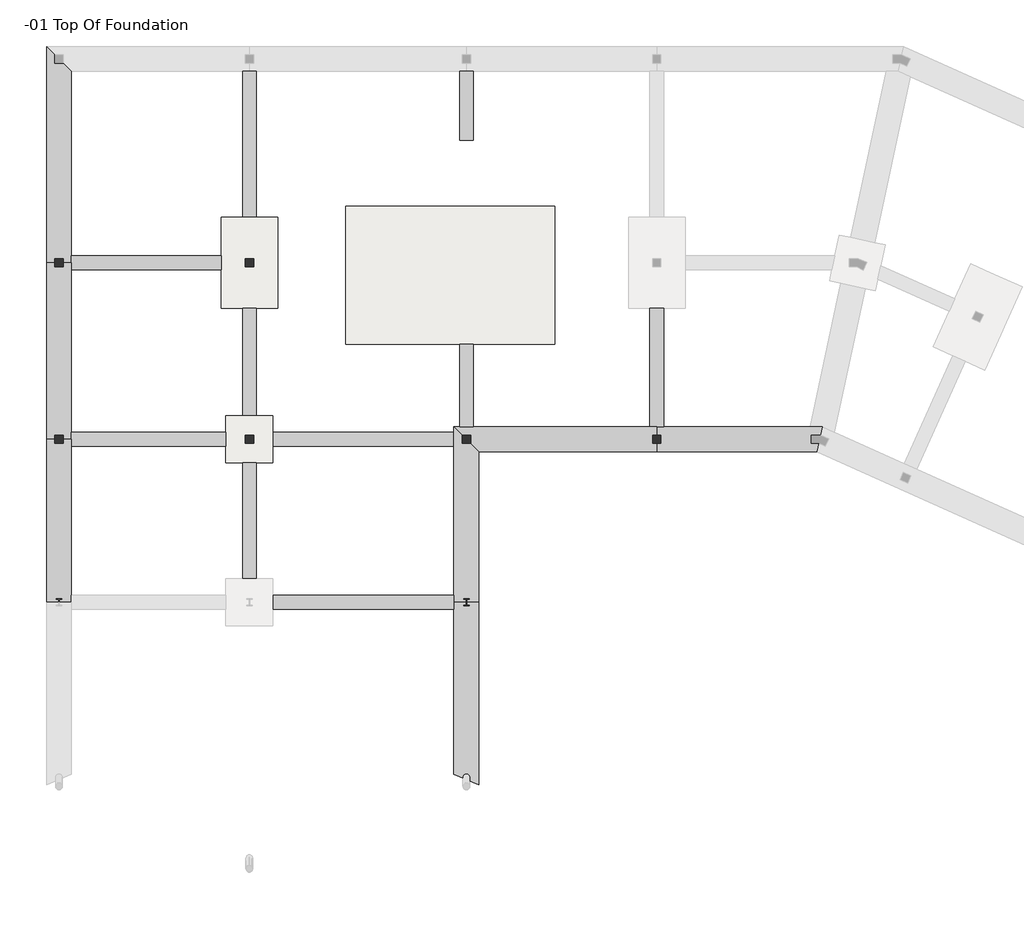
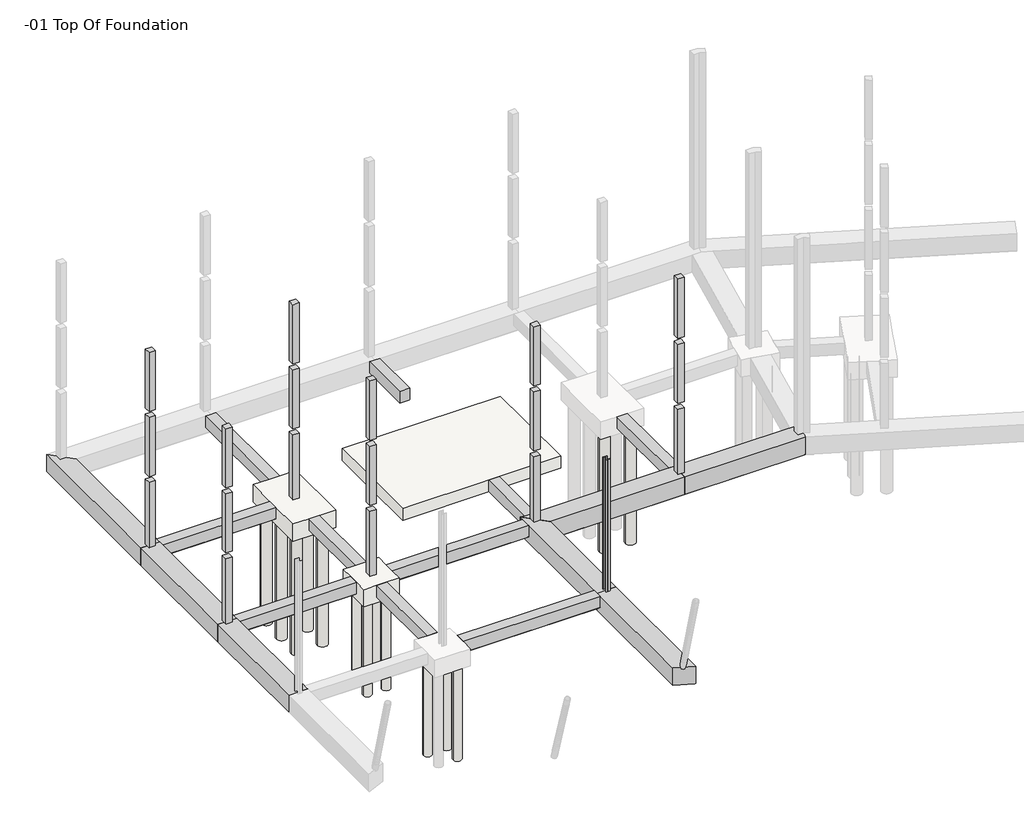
# One storey, part 2 of 4: 18 slabs, 17 beams, 7 columns.
"""IFC4 building model written with IfcOpenShell, lengths in millimetres."""

import ifcopenshell
import ifcopenshell.guid

model = None  # the IFC model being written
_history = None  # IfcOwnerHistory: only IFC2X3 demands one
_inside = {}  # id of a spatial element -> (the spatial element, [elements in it])
_under = {}  # id of a project, library or spatial element -> (it, [spatial elements below it])
_declared = {}  # id of a project -> (the project, [libraries it declares])
_typed = {}  # id of a type object -> (the type object, [elements of that type])
_made_of = {}  # id of a material, layer set ... -> (it, [elements and type objects made of it])


def new_model(schema):
    """Start an empty IFC model of exactly this schema.

    Asked for "IFC4X3", IfcOpenShell would pick the latest addendum, in which some entities
    have other attributes; the version numbers below select the first issue.
    IFC2X3 requires an IfcOwnerHistory on every rooted entity: one is made here for all.
    """
    global model, _history
    if schema == "IFC4X3":
        model = ifcopenshell.file(schema_version=(4, 3, 0, 0))
    else:
        model = ifcopenshell.file(schema=schema)
    _inside.clear()
    _under.clear()
    _declared.clear()
    _typed.clear()
    _made_of.clear()
    _history = None
    if model.schema == "IFC2X3":
        org = make("IfcOrganization", Name="unknown")
        user = make(
            "IfcPersonAndOrganization",
            ThePerson=make("IfcPerson", FamilyName="unknown"),
            TheOrganization=org,
        )
        app = make(
            "IfcApplication",
            ApplicationDeveloper=org,
            Version="unknown",
            ApplicationFullName="unknown",
            ApplicationIdentifier="unknown",
        )
        _history = make(
            "IfcOwnerHistory",
            OwningUser=user,
            OwningApplication=app,
            ChangeAction="ADDED",
            CreationDate=0,
        )
    return model


def make(cls, **values):
    """One entity of the class cls with the attributes given. An attribute that is None is left unset."""
    return model.create_entity(
        cls, **{name: value for name, value in values.items() if value is not None}
    )


def rooted(cls, **values):
    """An entity with a GlobalId (a new one), such as an element, a storey or a relation."""
    return make(cls, GlobalId=ifcopenshell.guid.new(), OwnerHistory=_history, **values)


def si_unit(unit_type, name, prefix=None):
    """IfcSIUnit, for example si_unit("LENGTHUNIT", "METRE", prefix="MILLI")."""
    return make("IfcSIUnit", UnitType=unit_type, Prefix=prefix, Name=name)


def assignment(units):
    """IfcUnitAssignment: the units of a project."""
    return None if units is None else make("IfcUnitAssignment", Units=units)


def point(xyz):
    """IfcCartesianPoint."""
    return None if xyz is None else make("IfcCartesianPoint", Coordinates=xyz)


def direction(xyz):
    """IfcDirection."""
    return None if xyz is None else make("IfcDirection", DirectionRatios=xyz)


def frame(location, z_axis=None, x_axis=None):
    """IfcAxis2Placement3D, a coordinate frame: its origin and axes. An axis left out is left unset."""
    return make(
        "IfcAxis2Placement3D",
        Location=point(location),
        Axis=direction(z_axis),
        RefDirection=direction(x_axis),
    )


def frame_2d(location, x_axis=None):
    """IfcAxis2Placement2D, a coordinate frame in the plane: its origin and x axis."""
    return make(
        "IfcAxis2Placement2D", Location=point(location), RefDirection=direction(x_axis)
    )


def origin():
    """The frame at (0, 0, 0) with its axes left unset."""
    return frame((0.0, 0.0, 0.0))


def place(relative_to, where):
    """IfcLocalPlacement: puts the frame where relative to a parent placement (None: the world)."""
    return make(
        "IfcLocalPlacement", PlacementRelTo=relative_to, RelativePlacement=where
    )


def context(
    kind, dimensions, precision=None, world=None, true_north=None, identifier=None
):
    """IfcGeometricRepresentationContext, for example the 3D "Model" context."""
    return make(
        "IfcGeometricRepresentationContext",
        ContextIdentifier=identifier,
        ContextType=kind,
        CoordinateSpaceDimension=dimensions,
        Precision=precision,
        WorldCoordinateSystem=world,
        TrueNorth=true_north,
    )


def project(units=None, contexts=None):
    """IfcProject with its units and contexts."""
    return rooted(
        "IfcProject",
        Name="project",
        RepresentationContexts=contexts,
        UnitsInContext=assignment(units),
    )


def spatial(cls, under=None, at=None, **own):
    """A site, building, storey or space (cls), placed at a placement, below another one or the project."""
    s = rooted(cls, ObjectPlacement=at, **own)
    if under is not None:
        _under.setdefault(under.id(), (under, []))[1].append(s)
    return s


def polyline(points):
    """IfcPolyline through the points."""
    return make("IfcPolyline", Points=[point(p) for p in points])


def circle_curve(where, radius):
    """IfcCircle in the frame where."""
    return make("IfcCircle", Position=where, Radius=radius)


def trimmed(basis, trim1, trim2, sense, master):
    """IfcTrimmedCurve: the piece of a basis curve between two trims."""
    return make(
        "IfcTrimmedCurve",
        BasisCurve=basis,
        Trim1=trim1,
        Trim2=trim2,
        SenseAgreement=sense,
        MasterRepresentation=master,
    )


def segment(curve, same_sense, transition):
    """IfcCompositeCurveSegment."""
    return make(
        "IfcCompositeCurveSegment",
        Transition=transition,
        SameSense=same_sense,
        ParentCurve=curve,
    )


def composite_curve(segments, self_intersect=None):
    """IfcCompositeCurve: segments joined end to end."""
    return make("IfcCompositeCurve", Segments=segments, SelfIntersect=self_intersect)


def outline(outer, holes=None, kind="AREA"):
    """IfcArbitraryClosedProfileDef: a profile drawn as a closed curve; with holes, ...WithVoids."""
    if holes is None:
        return make("IfcArbitraryClosedProfileDef", ProfileType=kind, OuterCurve=outer)
    return make(
        "IfcArbitraryProfileDefWithVoids",
        ProfileType=kind,
        OuterCurve=outer,
        InnerCurves=holes,
    )


def extrude(swept, where, along, depth):
    """IfcExtrudedAreaSolid: the profile swept, set in the frame where, extruded along a direction by depth."""
    return make(
        "IfcExtrudedAreaSolid",
        SweptArea=swept,
        Position=where,
        ExtrudedDirection=direction(along),
        Depth=depth,
    )


def faces_of(points, faces, orient=None, outer=None):
    """IfcFace entities. A face is a list of loops; a loop is a list of indices into points, from 0.

    orient and outer hold one flag for each loop. By default every Orientation is true, the
    first loop of a face is its IfcFaceOuterBound and the others are IfcFaceBound.
    """
    made = []
    for i, loops in enumerate(faces):
        bounds = []
        for j, loop in enumerate(loops):
            is_outer = j == 0 if outer is None else outer[i][j]
            bounds.append(
                make(
                    "IfcFaceOuterBound" if is_outer else "IfcFaceBound",
                    Bound=make("IfcPolyLoop", Polygon=[points[k] for k in loop]),
                    Orientation=True if orient is None else orient[i][j],
                )
            )
        made.append(make("IfcFace", Bounds=bounds))
    return made


def faceted_brep(points, faces, orient=None, outer=None, voids=None):
    """IfcFacetedBrep: a solid bounded by flat faces; with voids (closed shells), ...WithVoids."""
    shared = [point(p) for p in points]
    hull = make("IfcClosedShell", CfsFaces=faces_of(shared, faces, orient, outer))
    if voids is None:
        return make("IfcFacetedBrep", Outer=hull)
    return make(
        "IfcFacetedBrepWithVoids",
        Outer=hull,
        Voids=[
            make(cls, CfsFaces=faces_of(shared, fs, o, b)) for cls, fs, o, b in voids
        ],
    )


def shape(context_of_items, identifier, shape_type, items):
    """IfcShapeRepresentation: the items that make up one representation, for example the "Body"."""
    return make(
        "IfcShapeRepresentation",
        ContextOfItems=context_of_items,
        RepresentationIdentifier=identifier,
        RepresentationType=shape_type,
        Items=items,
    )


def source(mapping_origin, context_of_items, identifier, shape_type, items):
    """IfcRepresentationMap: a shape defined once, which mapped items show again and again."""
    return make(
        "IfcRepresentationMap",
        MappingOrigin=mapping_origin,
        MappedRepresentation=shape(context_of_items, identifier, shape_type, items),
    )


def transform(
    local_origin,
    x_axis=None,
    y_axis=None,
    z_axis=None,
    scale=None,
    scale2=None,
    scale3=None,
    uniform=True,
):
    """IfcCartesianTransformationOperator3D, or its non-uniform kind. x_axis, y_axis, z_axis: its Axis1, 2, 3."""
    if uniform:
        return make(
            "IfcCartesianTransformationOperator3D",
            Axis1=direction(x_axis),
            Axis2=direction(y_axis),
            LocalOrigin=point(local_origin),
            Scale=scale,
            Axis3=direction(z_axis),
        )
    return make(
        "IfcCartesianTransformationOperator3DnonUniform",
        Axis1=direction(x_axis),
        Axis2=direction(y_axis),
        LocalOrigin=point(local_origin),
        Scale=scale,
        Axis3=direction(z_axis),
        Scale2=scale2,
        Scale3=scale3,
    )


def mapped(mapping_source, mapping_target):
    """IfcMappedItem: shows the shape of a source again, moved by a transform."""
    return make(
        "IfcMappedItem", MappingSource=mapping_source, MappingTarget=mapping_target
    )


def made_of(thing, what):
    """Note that an element or type object is made of a material, layer set ...; save() writes the relation."""
    if what is not None:
        _made_of.setdefault(what.id(), (what, []))[1].append(thing)
    return thing


def element(
    cls,
    number,
    at=None,
    inside=None,
    cuts=None,
    type_object=None,
    material=None,
    context=None,
    identifier="Body",
    shape_type=None,
    held_by="IfcProductDefinitionShape",
    body=None,
    shapes=None,
    **own,
):
    """One element of the class cls, such as IfcWall. Its Tag is "e" and its number.

    at: its placement. inside: the storey or other place that contains it. cuts: it is an
    opening in that element (IfcRelVoidsElement). A single representation is given by context,
    identifier, shape_type and body (its items); several are given by shapes. held_by: the class
    of the entity that holds the representations. save() writes the other relations.
    """
    e = rooted(cls, Tag="e%d" % number, ObjectPlacement=at, **own)
    if body is not None:
        shapes = [shape(context, identifier, shape_type, body)]
    if shapes is not None:
        e.Representation = make(held_by, Representations=shapes)
    if inside is not None:
        _inside.setdefault(inside.id(), (inside, []))[1].append(e)
    if cuts is not None:
        rooted(
            "IfcRelVoidsElement", RelatingBuildingElement=cuts, RelatedOpeningElement=e
        )
    if type_object is not None:
        _typed.setdefault(type_object.id(), (type_object, []))[1].append(e)
    return made_of(e, material)


def aggregate(whole, parts):
    """IfcRelAggregates: a whole, such as a stair, and the parts it consists of."""
    return rooted("IfcRelAggregates", RelatingObject=whole, RelatedObjects=parts)


def save(model, path):
    """Write the relations noted so far, then the file.

    IfcRelAggregates (storeys below a building ...), IfcRelContainedInSpatialStructure (elements
    in a storey), IfcRelDefinesByType, IfcRelAssociatesMaterial and IfcRelDeclares: one each for
    every whole, place, type object, material and project.
    """
    for whole, parts in _under.values():
        aggregate(whole, parts)
    for where, things in _inside.values():
        rooted(
            "IfcRelContainedInSpatialStructure",
            RelatedElements=things,
            RelatingStructure=where,
        )
    for kind, things in _typed.values():
        rooted("IfcRelDefinesByType", RelatedObjects=things, RelatingType=kind)
    for what, things in _made_of.values():
        rooted("IfcRelAssociatesMaterial", RelatedObjects=things, RelatingMaterial=what)
    for by, libraries in _declared.values():
        rooted("IfcRelDeclares", RelatingContext=by, RelatedDefinitions=libraries)
    model.write(path)


def w_shapes_column_w10x33_60aa4128(model_context):
    return source(origin(), model_context, "Body", "SweptSolid", [
        extrude(outline(composite_curve([segment(polyline([(101.092, 123.571), (101.092, 112.522), (16.383, 112.522)]), True, "CONTINUOUS"), segment(trimmed(circle_curve(frame_2d((16.383, 99.822)), 12.7), [point((16.383, 112.522))], [point((3.683, 99.822))], True, "CARTESIAN"), True, "CONTINUOUS"), segment(polyline([(3.683, 99.822), (3.683, -99.822)]), True, "CONTINUOUS"), segment(trimmed(circle_curve(frame_2d((16.383, -99.822)), 12.7), [point((3.683, -99.822))], [point((16.383, -112.522))], True, "CARTESIAN"), True, "CONTINUOUS"), segment(polyline([(16.383, -112.522), (101.092, -112.522), (101.092, -123.571), (-101.092, -123.571), (-101.092, -112.522), (-16.383, -112.522)]), True, "CONTINUOUS"), segment(trimmed(circle_curve(frame_2d((-16.383, -99.822)), 12.7), [point((-16.383, -112.522))], [point((-3.683, -99.822))], True, "CARTESIAN"), True, "CONTINUOUS"), segment(polyline([(-3.683, -99.822), (-3.683, 99.822)]), True, "CONTINUOUS"), segment(trimmed(circle_curve(frame_2d((-16.383, 99.822)), 12.7), [point((-3.683, 99.822))], [point((-16.383, 112.522))], True, "CARTESIAN"), True, "CONTINUOUS"), segment(polyline([(-16.383, 112.522), (-101.092, 112.522), (-101.092, 123.571), (101.092, 123.571)]), True, "CONTINUOUS")], self_intersect=False)), frame((0.0, 0.0, -304.8), z_axis=(0.0, 0.0, 1.0), x_axis=(1.0, 0.0, 0.0)), (0.0, 0.0, 1.0), 6807.2),
    ])


model = new_model("IFC4")

# Units and contexts
model_context = context("Model", 3, world=origin())
ifc_project = project(units=[si_unit("LENGTHUNIT", "METRE", prefix="MILLI")], contexts=[model_context])

# Site, building, storey
site = spatial("IfcSite", under=ifc_project)
building = spatial("IfcBuilding", under=site)
storey = spatial("IfcBuildingStorey", under=building, Name="-01 Top Of Foundation", Elevation=-304.8)

# Beams
placement = place(None, origin())
element("IfcBeam", 1, ObjectType="Ring Beam : 12 x 24", at=placement, inside=storey, context=model_context, shape_type="Brep", body=[
    faceted_brep([(21755.1, -13538.2, -304.8), (22009.1, -13538.2, -304.8), (22263.1, -13538.2, -304.8), (22263.1, -9182.1, -304.8), (21755.1, -9182.1, -304.8), (22263.1, -13538.2, -889.0), (22263.1, -9182.1, -889.0), (22237.7, -13538.2, -914.4), (22237.7, -9182.1, -914.4), (21780.5, -13538.2, -914.4), (21780.5, -9182.1, -914.4), (21755.1, -13538.2, -889.0), (21755.1, -9182.1, -889.0)], [[[0, 1, 2, 3, 4]], [[2, 5, 6, 3]], [[5, 7, 8, 6]], [[7, 9, 10, 8]], [[9, 11, 12, 10]], [[11, 0, 4, 12]], [[5, 2, 1, 0, 11, 9, 7]], [[4, 3, 6, 8, 10, 12]]]),
])
element("IfcBeam", 2, ObjectType="Ring Beam : 12 x 24", at=placement, inside=storey, context=model_context, shape_type="Brep", body=[
    faceted_brep([(457.2, -7251.7, -304.8), (457.2, -7505.7, -304.8), (457.2, -7759.7, -304.8), (5969.0, -7759.7, -304.8), (5969.0, -7251.7, -304.8), (457.2, -7251.7, -889.0), (5969.0, -7251.7, -889.0), (457.2, -7277.1, -914.4), (5969.0, -7277.1, -914.4), (457.2, -7734.3, -914.4), (5969.0, -7734.3, -914.4), (457.2, -7759.7, -889.0), (5969.0, -7759.7, -889.0)], [[[0, 1, 2, 3, 4]], [[5, 0, 4, 6]], [[7, 5, 6, 8]], [[9, 7, 8, 10]], [[11, 9, 10, 12]], [[2, 11, 12, 3]], [[9, 11, 2, 1, 0, 5, 7]], [[4, 3, 12, 10, 8, 6]]]),
])
element("IfcBeam", 3, ObjectType="Ring Beam : 12 x 24", at=placement, inside=storey, context=model_context, shape_type="Brep", body=[
    faceted_brep([(7264.4, -457.2, -304.8), (7010.4, -457.2, -304.8), (6756.4, -457.2, -304.8), (6756.4, -5829.3, -304.8), (7264.4, -5829.3, -304.8), (7264.4, -457.2, -889.0), (7264.4, -5829.3, -889.0), (7239.0, -457.2, -914.4), (7239.0, -5829.3, -914.4), (6781.8, -457.2, -914.4), (6781.8, -5829.3, -914.4), (6756.4, -457.2, -889.0), (6756.4, -5829.3, -889.0)], [[[0, 1, 2, 3, 4]], [[5, 0, 4, 6]], [[7, 5, 6, 8]], [[9, 7, 8, 10]], [[11, 9, 10, 12]], [[2, 11, 12, 3]], [[0, 5, 7, 9, 11, 2, 1]], [[4, 3, 12, 10, 8, 6]]]),
])
element("IfcBeam", 4, ObjectType="Ring Beam : 12 x 24", at=placement, inside=storey, context=model_context, shape_type="Brep", body=[
    faceted_brep([(14744.7, -2984.5, -304.8), (15252.7, -2984.5, -304.8), (15252.7, -457.2, -304.8), (14998.7, -457.2, -304.8), (14744.7, -457.2, -304.8), (14744.7, -2984.5, -889.0), (14744.7, -457.2, -889.0), (14770.1, -2984.5, -914.4), (14770.1, -457.2, -914.4), (15227.3, -2984.5, -914.4), (15227.3, -457.2, -914.4), (15252.7, -2984.5, -889.0), (15252.7, -457.2, -889.0)], [[[0, 1, 2, 3, 4]], [[5, 0, 4, 6]], [[7, 5, 6, 8]], [[9, 7, 8, 10]], [[11, 9, 10, 12]], [[1, 11, 12, 2]], [[1, 0, 5, 7, 9, 11]], [[2, 12, 10, 8, 6, 4, 3]]]),
])
element("IfcBeam", 5, ObjectType="Ring Beam : 12 x 24", at=placement, inside=storey, context=model_context, shape_type="SweptSolid", body=[
    extrude(outline(polyline([(-304.8, 15252.7), (-304.8, 14744.7), (-889.0, 14744.7), (-914.4, 14770.1), (-914.4, 15227.3), (-889.0, 15252.7), (-304.8, 15252.7)])), frame((0.0, -13538.2, 0.0), z_axis=(0.0, 1.0, 0.0), x_axis=(0.0, 0.0, 1.0)), (0.0, 0.0, 1.0), 3035.3),
])
element("IfcBeam", 6, ObjectType="Ring Beam : 12 x 24", at=placement, inside=storey, context=model_context, shape_type="SweptSolid", body=[
    extrude(outline(polyline([(-14249.4, -304.8), (-13741.4, -304.8), (-13741.4, -889.0), (-13766.8, -914.4), (-14224.0, -914.4), (-14249.4, -889.0), (-14249.4, -304.8)])), frame((7874.0, 0.0, 0.0), z_axis=(1.0, 0.0, 0.0), x_axis=(0.0, 1.0, 0.0)), (0.0, 0.0, 1.0), 6667.5),
])
element("IfcBeam", 7, ObjectType="Ring Beam : 12 x 24", at=placement, inside=storey, context=model_context, shape_type="SweptSolid", body=[
    extrude(outline(polyline([(-304.8, 7264.4), (-304.8, 6756.4), (-889.0, 6756.4), (-914.4, 6781.8), (-914.4, 7239.0), (-889.0, 7264.4), (-304.8, 7264.4)])), frame((0.0, -13131.8, 0.0), z_axis=(0.0, 1.0, 0.0), x_axis=(0.0, 0.0, 1.0)), (0.0, 0.0, 1.0), 3949.7),
])
element("IfcBeam", 8, ObjectType="Ring Beam : 12 x 24", at=placement, inside=storey, context=model_context, shape_type="SweptSolid", body=[
    extrude(outline(polyline([(-304.8, 7264.4), (-304.8, 6756.4), (-889.0, 6756.4), (-914.4, 6781.8), (-914.4, 7239.0), (-889.0, 7264.4), (-304.8, 7264.4)])), frame((0.0, -19138.9, 0.0), z_axis=(0.0, 1.0, 0.0), x_axis=(0.0, 0.0, 1.0)), (0.0, 0.0, 1.0), 4279.9),
])
element("IfcBeam", 9, ObjectType="Ring Beam : 12 x 24", at=placement, inside=storey, context=model_context, shape_type="Brep", body=[
    faceted_brep([(457.2, -13741.4, -304.8), (457.2, -13995.4, -304.8), (457.2, -14249.4, -304.8), (6146.8, -14249.4, -304.8), (6146.8, -13741.4, -304.8), (457.2, -13741.4, -889.0), (6146.8, -13741.4, -889.0), (457.2, -13766.8, -914.4), (6146.8, -13766.8, -914.4), (457.2, -14224.0, -914.4), (6146.8, -14224.0, -914.4), (457.2, -14249.4, -889.0), (6146.8, -14249.4, -889.0)], [[[0, 1, 2, 3, 4]], [[5, 0, 4, 6]], [[7, 5, 6, 8]], [[9, 7, 8, 10]], [[11, 9, 10, 12]], [[2, 11, 12, 3]], [[0, 5, 7, 9, 11, 2, 1]], [[4, 3, 12, 10, 8, 6]]]),
])
element("IfcBeam", 10, ObjectType="Ring Beam : 12 x 24", at=placement, inside=storey, context=model_context, shape_type="Brep", body=[
    faceted_brep([(14541.5, -20256.5, -304.8), (14541.5, -20002.5, -304.8), (14541.5, -19748.5, -304.8), (7874.0, -19748.5, -304.8), (7874.0, -20256.5, -304.8), (14541.5, -20256.5, -889.0), (7874.0, -20256.5, -889.0), (14541.5, -20231.1, -914.4), (7874.0, -20231.1, -914.4), (14541.5, -19773.9, -914.4), (7874.0, -19773.9, -914.4), (14541.5, -19748.5, -889.0), (7874.0, -19748.5, -889.0)], [[[0, 1, 2, 3, 4]], [[5, 0, 4, 6]], [[7, 5, 6, 8]], [[9, 7, 8, 10]], [[11, 9, 10, 12]], [[2, 11, 12, 3]], [[0, 5, 7, 9, 11, 2, 1]], [[4, 3, 12, 10, 8, 6]]]),
])
element("IfcBeam", 11, ObjectType="Ring Beam : 16 x 32", at=placement, inside=storey, context=model_context, shape_type="Brep", body=[
    faceted_brep([(457.2, -7505.7, -304.8), (457.2, -7251.7, -304.8), (457.2, -457.2, -304.8), (-457.2, 457.2, -304.8), (-457.2, -7505.7, -304.8), (-457.2, 457.2, -1193.8), (-457.2, -7505.7, -1193.8), (-431.8, 431.8, -1219.2), (-431.8, -7505.7, -1219.2), (431.8, -431.8, -1219.2), (431.8, -7505.7, -1219.2), (457.2, -457.2, -1193.8), (457.2, -7505.7, -1193.8)], [[[0, 1, 2, 3, 4]], [[4, 3, 5, 6]], [[6, 5, 7, 8]], [[8, 7, 9, 10]], [[10, 9, 11, 12]], [[2, 1, 0, 12, 11]], [[2, 11, 9, 7, 5, 3]], [[0, 4, 6, 8, 10, 12]]]),
])
element("IfcBeam", 12, ObjectType="Ring Beam : 16 x 32", at=placement, inside=storey, context=model_context, shape_type="Brep", body=[
    faceted_brep([(-457.2, -20002.5, -304.8), (457.2, -20002.5, -304.8), (457.2, -19748.5, -304.8), (457.2, -14249.4, -304.8), (457.2, -13995.4, -304.8), (-457.2, -13995.4, -304.8), (-457.2, -14452.6, -304.8), (-457.2, -20002.5, -1193.8), (-457.2, -13995.4, -1193.8), (-431.8, -20002.5, -1219.2), (-431.8, -13995.4, -1219.2), (431.8, -20002.5, -1219.2), (431.8, -13995.4, -1219.2), (457.2, -20002.5, -1193.8), (457.2, -13995.4, -1193.8)], [[[0, 1, 2, 3, 4, 5, 6]], [[7, 0, 6, 5, 8]], [[9, 7, 8, 10]], [[11, 9, 10, 12]], [[13, 11, 12, 14]], [[1, 13, 14, 4, 3, 2]], [[4, 14, 12, 10, 8, 5]], [[1, 0, 7, 9, 11, 13]]]),
])
element("IfcBeam", 13, ObjectType="Ring Beam : 16 x 32", at=placement, inside=storey, context=model_context, shape_type="Brep", body=[
    faceted_brep([(14541.5, -20002.5, -304.8), (15455.9, -20002.5, -304.8), (15455.9, -14452.6, -304.8), (14541.5, -13538.2, -304.8), (14541.5, -13741.4, -304.8), (14541.5, -14249.4, -304.8), (14541.5, -19748.5, -304.8), (14541.5, -20002.5, -1193.8), (14541.5, -13538.2, -1193.8), (14566.9, -20002.5, -1219.2), (14566.9, -13563.6, -1219.2), (15430.5, -20002.5, -1219.2), (15430.5, -14427.2, -1219.2), (15455.9, -20002.5, -1193.8), (15455.9, -14452.6, -1193.8)], [[[0, 1, 2, 3, 4, 5, 6]], [[7, 0, 6, 5, 4, 3, 8]], [[9, 7, 8, 10]], [[11, 9, 10, 12]], [[13, 11, 12, 14]], [[1, 13, 14, 2]], [[2, 14, 12, 10, 8, 3]], [[1, 0, 7, 9, 11, 13]]]),
])
element("IfcBeam", 14, ObjectType="Ring Beam : 16 x 32", at=placement, inside=storey, context=model_context, shape_type="Brep", body=[
    faceted_brep([(22009.1, -13538.2, -304.8), (21755.1, -13538.2, -304.8), (15252.7, -13538.2, -304.8), (14744.7, -13538.2, -304.8), (14541.5, -13538.2, -304.8), (15455.9, -14452.6, -304.8), (22009.1, -14452.6, -304.8), (15455.9, -14452.6, -1193.8), (22009.1, -14452.6, -1193.8), (15430.5, -14427.2, -1219.2), (22009.1, -14427.2, -1219.2), (14566.9, -13563.6, -1219.2), (22009.1, -13563.6, -1219.2), (14541.5, -13538.2, -1193.8), (22009.1, -13538.2, -1193.8)], [[[0, 1, 2, 3, 4, 5, 6]], [[6, 5, 7, 8]], [[8, 7, 9, 10]], [[10, 9, 11, 12]], [[12, 11, 13, 14]], [[4, 3, 2, 1, 0, 14, 13]], [[4, 13, 11, 9, 7, 5]], [[0, 6, 8, 10, 12, 14]]]),
])
element("IfcBeam", 15, ObjectType="Ring Beam : 16 x 32", at=placement, inside=storey, context=model_context, shape_type="Brep", body=[
    faceted_brep([(27903.7815965, -14452.6, -304.8), (28099.7244536, -13538.2, -304.8), (27649.987277, -13538.2, -304.8), (22263.1, -13538.2, -304.8), (22009.1, -13538.2, -304.8), (22009.1, -14452.6, -304.8), (27903.7815965, -14452.6, -1193.8), (22009.1, -14452.6, -1193.8), (27909.2244536, -14427.2, -1219.2), (22009.1, -14427.2, -1219.2), (28094.2815965, -13563.6, -1219.2), (22009.1, -13563.6, -1219.2), (27670.521038, -13563.6, -1219.2), (28099.7244536, -13538.2, -1193.8), (22009.1, -13538.2, -1193.8), (27649.987277, -13538.2, -1193.8)], [[[0, 1, 2, 3, 4, 5]], [[6, 0, 5, 7]], [[8, 6, 7, 9]], [[10, 8, 9, 11, 12]], [[13, 10, 12, 11, 14, 15]], [[1, 13, 15, 14, 4, 3, 2]], [[1, 0, 6, 8, 10, 13]], [[4, 14, 11, 9, 7, 5]]]),
])
element("IfcBeam", 16, ObjectType="Ring Beam : 16 x 32", at=placement, inside=storey, context=model_context, shape_type="Brep", body=[
    faceted_brep([(14541.5, -26332.3874204, -304.8), (15455.9, -26723.3402351, -304.8), (15455.9, -20002.5, -304.8), (14541.5, -20002.5, -304.8), (14541.5, -20256.5, -304.8), (14541.5, -26332.3874204, -1193.8), (14541.5, -20002.5, -1193.8), (14566.9, -26343.2472208, -1219.2), (14566.9, -20002.5, -1219.2), (15430.5, -26712.4804347, -1219.2), (15430.5, -20002.5, -1219.2), (15455.9, -26723.3402351, -1193.8), (15455.9, -20002.5, -1193.8)], [[[0, 1, 2, 3, 4]], [[5, 0, 4, 3, 6]], [[7, 5, 6, 8]], [[9, 7, 8, 10]], [[11, 9, 10, 12]], [[1, 11, 12, 2]], [[1, 0, 5, 7, 9, 11]], [[2, 12, 10, 8, 6, 3]]]),
])
element("IfcBeam", 17, ObjectType="Ring Beam : 16 x 32", at=placement, inside=storey, context=model_context, shape_type="Brep", body=[
    faceted_brep([(-457.2, -13995.4, -304.8), (457.2, -13995.4, -304.8), (457.2, -13741.4, -304.8), (457.2, -7759.7, -304.8), (457.2, -7505.7, -304.8), (-457.2, -7505.7, -304.8), (-457.2, -13995.4, -1193.8), (-457.2, -7505.7, -1193.8), (-431.8, -13995.4, -1219.2), (-431.8, -7505.7, -1219.2), (431.8, -13995.4, -1219.2), (431.8, -7505.7, -1219.2), (457.2, -13995.4, -1193.8), (457.2, -7505.7, -1193.8)], [[[0, 1, 2, 3, 4, 5]], [[6, 0, 5, 7]], [[8, 6, 7, 9]], [[10, 8, 9, 11]], [[12, 10, 11, 13]], [[1, 12, 13, 4, 3, 2]], [[1, 0, 6, 8, 10, 12]], [[4, 13, 11, 9, 7, 5]]]),
])

# Columns
element("IfcColumn", 18, ObjectType="Concrete-Rectangular-Column : 12 x 12", at=placement, inside=storey, context=model_context, shape_type="Brep", body=[
    faceted_brep([(7162.8, -7353.3, -304.8), (7162.8, -7658.1, -304.8), (6858.0, -7658.1, -304.8), (6858.0, -7353.3, -304.8), (7162.8, -7658.1, 3048.0), (7162.8, -7353.3, 3048.0), (6858.0, -7353.3, 3048.0), (6858.0, -7658.1, 3048.0), (7162.8, -7353.3, 0.0), (7162.8, -7658.1, 0.0), (6858.0, -7658.1, 0.0), (6858.0, -7353.3, 0.0)], [[[0, 1, 2, 3]], [[4, 5, 6, 7]], [[1, 0, 8, 5, 4, 9]], [[2, 1, 9, 4, 7, 10]], [[3, 2, 10, 7, 6, 11]], [[0, 3, 11, 6, 5, 8]]]),
    faceted_brep([(7162.8, -7658.1, 6705.6), (7162.8, -7353.3, 6705.6), (7162.8, -7353.3, 9753.6), (7162.8, -7658.1, 9753.6), (6858.0, -7658.1, 6705.6), (6858.0, -7658.1, 9753.6), (6858.0, -7353.3, 6705.6), (6858.0, -7353.3, 9753.6)], [[[0, 1, 2, 3]], [[4, 0, 3, 5]], [[6, 4, 5, 7]], [[1, 6, 7, 2]], [[1, 0, 4, 6]], [[3, 2, 7, 5]]]),
    faceted_brep([(7162.8, -7658.1, 6400.8), (7162.8, -7353.3, 6400.8), (6858.0, -7353.3, 6400.8), (6858.0, -7658.1, 6400.8), (7162.8, -7658.1, 3352.8), (7162.8, -7353.3, 3352.8), (6858.0, -7658.1, 3352.8), (6858.0, -7353.3, 3352.8)], [[[0, 1, 2, 3]], [[1, 0, 4, 5]], [[0, 3, 6, 4]], [[3, 2, 7, 6]], [[2, 1, 5, 7]], [[5, 4, 6, 7]]]),
])
element("IfcColumn", 19, ObjectType="Concrete-Rectangular-Column : 12 x 12", at=placement, inside=storey, context=model_context, shape_type="Brep", body=[
    faceted_brep([(152.4, -7353.3, -304.8), (152.4, -7658.1, -304.8), (-152.4, -7658.1, -304.8), (-152.4, -7353.3, -304.8), (152.4, -7658.1, 3048.0), (152.4, -7353.3, 3048.0), (-152.4, -7353.3, 3048.0), (-152.4, -7658.1, 3048.0), (152.4, -7353.3, 0.0), (152.4, -7658.1, 0.0), (-152.4, -7658.1, 0.0), (-152.4, -7353.3, 0.0)], [[[0, 1, 2, 3]], [[4, 5, 6, 7]], [[1, 0, 8, 5, 4, 9]], [[2, 1, 9, 4, 7, 10]], [[3, 2, 10, 7, 6, 11]], [[0, 3, 11, 6, 5, 8]]]),
    faceted_brep([(152.4, -7658.1, 6705.6), (152.4, -7353.3, 6705.6), (152.4, -7353.3, 9753.6), (152.4, -7658.1, 9753.6), (-152.4, -7658.1, 6705.6), (-152.4, -7658.1, 9753.6), (-152.4, -7353.3, 6705.6), (-152.4, -7353.3, 9753.6)], [[[0, 1, 2, 3]], [[4, 0, 3, 5]], [[6, 4, 5, 7]], [[1, 6, 7, 2]], [[1, 0, 4, 6]], [[3, 2, 7, 5]]]),
    faceted_brep([(152.4, -7658.1, 6400.8), (152.4, -7353.3, 6400.8), (-152.4, -7353.3, 6400.8), (-152.4, -7658.1, 6400.8), (152.4, -7658.1, 3352.8), (152.4, -7353.3, 3352.8), (-152.4, -7658.1, 3352.8), (-152.4, -7353.3, 3352.8)], [[[0, 1, 2, 3]], [[1, 0, 4, 5]], [[0, 3, 6, 4]], [[3, 2, 7, 6]], [[2, 1, 5, 7]], [[5, 4, 6, 7]]]),
])
element("IfcColumn", 20, ObjectType="Concrete-Rectangular-Column : 12 x 12", at=placement, inside=storey, context=model_context, shape_type="Brep", body=[
    faceted_brep([(152.4, -13843.0, -304.8), (152.4, -14147.8, -304.8), (-152.4, -14147.8, -304.8), (-152.4, -13843.0, -304.8), (152.4, -13843.0, 0.0), (152.4, -13843.0, 3048.0), (152.4, -14147.8, 3048.0), (152.4, -14147.8, 0.0), (-152.4, -14147.8, 3048.0), (-152.4, -14147.8, 0.0), (-152.4, -13843.0, 3048.0), (-152.4, -13843.0, 0.0)], [[[0, 1, 2, 3]], [[1, 0, 4, 5, 6, 7]], [[2, 1, 7, 6, 8, 9]], [[3, 2, 9, 8, 10, 11]], [[0, 3, 11, 10, 5, 4]], [[6, 5, 10, 8]]]),
    faceted_brep([(152.4, -14147.8, 6705.6), (152.4, -13843.0, 6705.6), (152.4, -13843.0, 9753.6), (152.4, -14147.8, 9753.6), (-152.4, -14147.8, 6705.6), (-152.4, -14147.8, 9753.6), (-152.4, -13843.0, 6705.6), (-152.4, -13843.0, 9753.6)], [[[0, 1, 2, 3]], [[4, 0, 3, 5]], [[6, 4, 5, 7]], [[1, 6, 7, 2]], [[1, 0, 4, 6]], [[3, 2, 7, 5]]]),
    faceted_brep([(152.4, -13843.0, 3352.8), (152.4, -14147.8, 3352.8), (-152.4, -14147.8, 3352.8), (-152.4, -13843.0, 3352.8), (152.4, -14147.8, 6400.8), (152.4, -13843.0, 6400.8), (-152.4, -13843.0, 6400.8), (-152.4, -14147.8, 6400.8)], [[[0, 1, 2, 3]], [[4, 5, 6, 7]], [[1, 0, 5, 4]], [[2, 1, 4, 7]], [[3, 2, 7, 6]], [[0, 3, 6, 5]]]),
])
element("IfcColumn", 21, ObjectType="Concrete-Rectangular-Column : 12 x 12", at=placement, inside=storey, context=model_context, shape_type="Brep", body=[
    faceted_brep([(15151.1, -13843.0, -304.8), (15151.1, -14147.8, -304.8), (14846.3, -14147.8, -304.8), (14846.3, -13843.0, -304.8), (15151.1, -13843.0, 0.0), (15151.1, -13843.0, 3048.0), (15151.1, -14147.8, 3048.0), (15151.1, -14147.8, 0.0), (14846.3, -14147.8, 3048.0), (14846.3, -14147.8, 0.0), (14846.3, -13843.0, 3048.0), (14846.3, -13843.0, 0.0)], [[[0, 1, 2, 3]], [[1, 0, 4, 5, 6, 7]], [[2, 1, 7, 6, 8, 9]], [[3, 2, 9, 8, 10, 11]], [[0, 3, 11, 10, 5, 4]], [[6, 5, 10, 8]]]),
    faceted_brep([(15151.1, -14147.8, 6705.6), (15151.1, -13843.0, 6705.6), (15151.1, -13843.0, 9753.6), (15151.1, -14147.8, 9753.6), (14846.3, -14147.8, 6705.6), (14846.3, -14147.8, 9753.6), (14846.3, -13843.0, 6705.6), (14846.3, -13843.0, 9753.6)], [[[0, 1, 2, 3]], [[4, 0, 3, 5]], [[6, 4, 5, 7]], [[1, 6, 7, 2]], [[1, 0, 4, 6]], [[3, 2, 7, 5]]]),
    faceted_brep([(15151.1, -13843.0, 3352.8), (15151.1, -14147.8, 3352.8), (14846.3, -14147.8, 3352.8), (14846.3, -13843.0, 3352.8), (15151.1, -14147.8, 6400.8), (15151.1, -13843.0, 6400.8), (14846.3, -13843.0, 6400.8), (14846.3, -14147.8, 6400.8)], [[[0, 1, 2, 3]], [[4, 5, 6, 7]], [[1, 0, 5, 4]], [[2, 1, 4, 7]], [[3, 2, 7, 6]], [[0, 3, 6, 5]]]),
])
element("IfcColumn", 22, ObjectType="Concrete-Rectangular-Column : 12 x 12", at=placement, inside=storey, context=model_context, shape_type="Brep", body=[
    faceted_brep([(22161.5, -13843.0, -304.8), (22161.5, -14147.8, -304.8), (21856.7, -14147.8, -304.8), (21856.7, -13843.0, -304.8), (22161.5, -14147.8, 3048.0), (22161.5, -13843.0, 3048.0), (21856.7, -13843.0, 3048.0), (21856.7, -14147.8, 3048.0), (22161.5, -13843.0, 0.0), (22161.5, -14147.8, 0.0), (21856.7, -14147.8, 0.0), (21856.7, -13843.0, 0.0)], [[[0, 1, 2, 3]], [[4, 5, 6, 7]], [[1, 0, 8, 5, 4, 9]], [[2, 1, 9, 4, 7, 10]], [[3, 2, 10, 7, 6, 11]], [[0, 3, 11, 6, 5, 8]]]),
    faceted_brep([(22161.5, -14147.8, 6705.6), (22161.5, -13843.0, 6705.6), (22161.5, -13843.0, 9753.6), (22161.5, -14147.8, 9753.6), (21856.7, -14147.8, 6705.6), (21856.7, -14147.8, 9753.6), (21856.7, -13843.0, 6705.6), (21856.7, -13843.0, 9753.6)], [[[0, 1, 2, 3]], [[4, 0, 3, 5]], [[6, 4, 5, 7]], [[1, 6, 7, 2]], [[1, 0, 4, 6]], [[3, 2, 7, 5]]]),
    faceted_brep([(22161.5, -14147.8, 6400.8), (22161.5, -13843.0, 6400.8), (21856.7, -13843.0, 6400.8), (21856.7, -14147.8, 6400.8), (22161.5, -14147.8, 3352.8), (22161.5, -13843.0, 3352.8), (21856.7, -14147.8, 3352.8), (21856.7, -13843.0, 3352.8)], [[[0, 1, 2, 3]], [[1, 0, 4, 5]], [[0, 3, 6, 4]], [[3, 2, 7, 6]], [[2, 1, 5, 7]], [[5, 4, 6, 7]]]),
])
element("IfcColumn", 23, ObjectType="Concrete-Rectangular-Column : 12 x 12", at=placement, inside=storey, context=model_context, shape_type="Brep", body=[
    faceted_brep([(7162.8, -13843.0, -304.8), (7162.8, -14147.8, -304.8), (6858.0, -14147.8, -304.8), (6858.0, -13843.0, -304.8), (7162.8, -13843.0, 0.0), (7162.8, -13843.0, 3048.0), (7162.8, -14147.8, 3048.0), (7162.8, -14147.8, 0.0), (6858.0, -14147.8, 3048.0), (6858.0, -14147.8, 0.0), (6858.0, -13843.0, 3048.0), (6858.0, -13843.0, 0.0)], [[[0, 1, 2, 3]], [[1, 0, 4, 5, 6, 7]], [[2, 1, 7, 6, 8, 9]], [[3, 2, 9, 8, 10, 11]], [[0, 3, 11, 10, 5, 4]], [[6, 5, 10, 8]]]),
    faceted_brep([(7162.8, -14147.8, 6705.6), (7162.8, -13843.0, 6705.6), (7162.8, -13843.0, 9753.6), (7162.8, -14147.8, 9753.6), (6858.0, -14147.8, 6705.6), (6858.0, -14147.8, 9753.6), (6858.0, -13843.0, 6705.6), (6858.0, -13843.0, 9753.6)], [[[0, 1, 2, 3]], [[4, 0, 3, 5]], [[6, 4, 5, 7]], [[1, 6, 7, 2]], [[1, 0, 4, 6]], [[3, 2, 7, 5]]]),
    faceted_brep([(7162.8, -13843.0, 3352.8), (7162.8, -14147.8, 3352.8), (6858.0, -14147.8, 3352.8), (6858.0, -13843.0, 3352.8), (7162.8, -14147.8, 6400.8), (7162.8, -13843.0, 6400.8), (6858.0, -13843.0, 6400.8), (6858.0, -14147.8, 6400.8)], [[[0, 1, 2, 3]], [[4, 5, 6, 7]], [[1, 0, 5, 4]], [[2, 1, 4, 7]], [[3, 2, 7, 6]], [[0, 3, 6, 5]]]),
])
w_shapes_column_w10x33_shape = w_shapes_column_w10x33_60aa4128(model_context)
element("IfcColumn", 24, ObjectType="W Shapes-Column : W10X33", at=placement, inside=storey, context=model_context, shape_type="MappedRepresentation", body=[
    mapped(w_shapes_column_w10x33_shape, transform((14998.7, -20002.5, 0.0), x_axis=(1.0, 0.0, 0.0), y_axis=(0.0, 1.0, 0.0), z_axis=(0.0, 0.0, 1.0))),
])

# Slabs
element("IfcSlab", 25, ObjectType="24\" Foundation Slab", at=placement, inside=storey, context=model_context, shape_type="Brep", body=[
    faceted_brep([(18249.9, -5422.9, -914.4), (18249.9, -7277.1, -914.4), (18249.9, -7734.3, -914.4), (18249.9, -10502.9, -914.4), (15227.3, -10502.9, -914.4), (14770.1, -10502.9, -914.4), (10553.7, -10502.9, -914.4), (10553.7, -7734.3, -914.4), (10553.7, -7277.1, -914.4), (10553.7, -5422.9, -914.4), (18249.9, -5422.9, -304.8), (10553.7, -5422.9, -304.8), (10553.7, -7251.7, -304.8), (10553.7, -7759.7, -304.8), (10553.7, -10502.9, -304.8), (14744.7, -10502.9, -304.8), (15252.7, -10502.9, -304.8), (18249.9, -10502.9, -304.8), (18249.9, -7759.7, -304.8), (18249.9, -7251.7, -304.8)], [[[0, 1, 2, 3, 4, 5, 6, 7, 8, 9]], [[10, 11, 12, 13, 14, 15, 16, 17, 18, 19]], [[3, 2, 1, 0, 10, 19, 18, 17]], [[6, 5, 4, 3, 17, 16, 15, 14]], [[9, 8, 7, 6, 14, 13, 12, 11]], [[0, 9, 11, 10]]]),
])
element("IfcSlab", 26, ObjectType="Pile Cap-4 Pile : 68\"x68\"x35\"", at=placement, inside=storey, context=model_context, shape_type="Brep", body=[
    faceted_brep([(7874.0, -13131.8, -304.8), (7264.4, -13131.8, -304.8), (6756.4, -13131.8, -304.8), (6146.8, -13131.8, -304.8), (6146.8, -13741.4, -304.8), (6146.8, -14249.4, -304.8), (6146.8, -14859.0, -304.8), (6756.4, -14859.0, -304.8), (7264.4, -14859.0, -304.8), (7874.0, -14859.0, -304.8), (7874.0, -14249.4, -304.8), (7874.0, -13741.4, -304.8), (7874.0, -13131.8, -1193.8), (7874.0, -14859.0, -1193.8), (6146.8, -14859.0, -1193.8), (6146.8, -13131.8, -1193.8)], [[[0, 1, 2, 3, 4, 5, 6, 7, 8, 9, 10, 11]], [[12, 13, 14, 15]], [[3, 2, 1, 0, 12, 15]], [[6, 5, 4, 3, 15, 14]], [[9, 8, 7, 6, 14, 13]], [[0, 11, 10, 9, 13, 12]]]),
])
element("IfcSlab", 27, ObjectType="Pile Cap-6 Pile : 132\"x82\"x35\"", at=placement, inside=storey, context=model_context, shape_type="Brep", body=[
    faceted_brep([(5969.0, -9182.1, -304.8), (6756.4, -9182.1, -304.8), (7264.4, -9182.1, -304.8), (8051.8, -9182.1, -304.8), (8051.8, -7759.7, -304.8), (8051.8, -7251.7, -304.8), (8051.8, -5829.3, -304.8), (7264.4, -5829.3, -304.8), (6756.4, -5829.3, -304.8), (5969.0, -5829.3, -304.8), (5969.0, -7251.7, -304.8), (5969.0, -7759.7, -304.8), (5969.0, -9182.1, -1193.8), (5969.0, -5829.3, -1193.8), (8051.8, -5829.3, -1193.8), (8051.8, -9182.1, -1193.8)], [[[0, 1, 2, 3, 4, 5, 6, 7, 8, 9, 10, 11]], [[12, 13, 14, 15]], [[3, 2, 1, 0, 12, 15]], [[6, 5, 4, 3, 15, 14]], [[9, 8, 7, 6, 14, 13]], [[0, 11, 10, 9, 13, 12]]]),
])
element("IfcSlab", 28, ObjectType="Round In Situ Concrete Pile : 16\" Diameter 16'", at=placement, inside=storey, context=model_context, shape_type="SweptSolid", body=[
    extrude(outline(composite_curve([segment(trimmed(circle_curve(frame_2d((6553.2, -13538.2)), 203.2), [point((6350.0, -13538.2))], [point((6756.4, -13538.2))], False, "CARTESIAN"), True, "CONTINUOUS"), segment(trimmed(circle_curve(frame_2d((6553.2, -13538.2)), 203.2), [point((6756.4, -13538.2))], [point((6350.0, -13538.2))], False, "CARTESIAN"), True, "CONTINUOUS")], self_intersect=False)), frame((0.0, 0.0, -6070.6), z_axis=(0.0, 0.0, 1.0), x_axis=(1.0, 0.0, 0.0)), (0.0, 0.0, 1.0), 4876.8),
])
element("IfcSlab", 29, ObjectType="Round In Situ Concrete Pile : 16\" Diameter 16'", at=placement, inside=storey, context=model_context, shape_type="SweptSolid", body=[
    extrude(outline(composite_curve([segment(trimmed(circle_curve(frame_2d((6553.2, -14452.6)), 203.2), [point((6350.0, -14452.6))], [point((6756.4, -14452.6))], False, "CARTESIAN"), True, "CONTINUOUS"), segment(trimmed(circle_curve(frame_2d((6553.2, -14452.6)), 203.2), [point((6756.4, -14452.6))], [point((6350.0, -14452.6))], False, "CARTESIAN"), True, "CONTINUOUS")], self_intersect=False)), frame((0.0, 0.0, -6070.6), z_axis=(0.0, 0.0, 1.0), x_axis=(1.0, 0.0, 0.0)), (0.0, 0.0, 1.0), 4876.8),
])
element("IfcSlab", 30, ObjectType="Round In Situ Concrete Pile : 16\" Diameter 16'", at=placement, inside=storey, context=model_context, shape_type="SweptSolid", body=[
    extrude(outline(composite_curve([segment(trimmed(circle_curve(frame_2d((7467.6, -14452.6)), 203.2), [point((7264.4, -14452.6))], [point((7670.8, -14452.6))], False, "CARTESIAN"), True, "CONTINUOUS"), segment(trimmed(circle_curve(frame_2d((7467.6, -14452.6)), 203.2), [point((7670.8, -14452.6))], [point((7264.4, -14452.6))], False, "CARTESIAN"), True, "CONTINUOUS")], self_intersect=False)), frame((0.0, 0.0, -6070.6), z_axis=(0.0, 0.0, 1.0), x_axis=(1.0, 0.0, 0.0)), (0.0, 0.0, 1.0), 4876.8),
])
element("IfcSlab", 31, ObjectType="Round In Situ Concrete Pile : 16\" Diameter 16'", at=placement, inside=storey, context=model_context, shape_type="SweptSolid", body=[
    extrude(outline(composite_curve([segment(trimmed(circle_curve(frame_2d((7467.6, -13538.2)), 203.2), [point((7264.4, -13538.2))], [point((7670.8, -13538.2))], False, "CARTESIAN"), True, "CONTINUOUS"), segment(trimmed(circle_curve(frame_2d((7467.6, -13538.2)), 203.2), [point((7670.8, -13538.2))], [point((7264.4, -13538.2))], False, "CARTESIAN"), True, "CONTINUOUS")], self_intersect=False)), frame((0.0, 0.0, -6070.6), z_axis=(0.0, 0.0, 1.0), x_axis=(1.0, 0.0, 0.0)), (0.0, 0.0, 1.0), 4876.8),
])
element("IfcSlab", 32, ObjectType="Round In Situ Concrete Pile : 16\" Diameter 16'", at=placement, inside=storey, context=model_context, shape_type="SweptSolid", body=[
    extrude(outline(composite_curve([segment(trimmed(circle_curve(frame_2d((6553.2, -19545.3)), 203.2), [point((6350.0, -19545.3))], [point((6756.4, -19545.3))], False, "CARTESIAN"), True, "CONTINUOUS"), segment(trimmed(circle_curve(frame_2d((6553.2, -19545.3)), 203.2), [point((6756.4, -19545.3))], [point((6350.0, -19545.3))], False, "CARTESIAN"), True, "CONTINUOUS")], self_intersect=False)), frame((0.0, 0.0, -6070.6), z_axis=(0.0, 0.0, 1.0), x_axis=(1.0, 0.0, 0.0)), (0.0, 0.0, 1.0), 4876.8),
])
element("IfcSlab", 33, ObjectType="Round In Situ Concrete Pile : 16\" Diameter 16'", at=placement, inside=storey, context=model_context, shape_type="SweptSolid", body=[
    extrude(outline(composite_curve([segment(trimmed(circle_curve(frame_2d((7467.6, -20459.7)), 203.2), [point((7264.4, -20459.7))], [point((7670.8, -20459.7))], False, "CARTESIAN"), True, "CONTINUOUS"), segment(trimmed(circle_curve(frame_2d((7467.6, -20459.7)), 203.2), [point((7670.8, -20459.7))], [point((7264.4, -20459.7))], False, "CARTESIAN"), True, "CONTINUOUS")], self_intersect=False)), frame((0.0, 0.0, -6070.6), z_axis=(0.0, 0.0, 1.0), x_axis=(1.0, 0.0, 0.0)), (0.0, 0.0, 1.0), 4876.8),
])
element("IfcSlab", 34, ObjectType="Round In Situ Concrete Pile : 16\" Diameter 16'", at=placement, inside=storey, context=model_context, shape_type="SweptSolid", body=[
    extrude(outline(composite_curve([segment(trimmed(circle_curve(frame_2d((7467.6, -19545.3)), 203.2), [point((7264.4, -19545.3))], [point((7670.8, -19545.3))], False, "CARTESIAN"), True, "CONTINUOUS"), segment(trimmed(circle_curve(frame_2d((7467.6, -19545.3)), 203.2), [point((7670.8, -19545.3))], [point((7264.4, -19545.3))], False, "CARTESIAN"), True, "CONTINUOUS")], self_intersect=False)), frame((0.0, 0.0, -6070.6), z_axis=(0.0, 0.0, 1.0), x_axis=(1.0, 0.0, 0.0)), (0.0, 0.0, 1.0), 4876.8),
])
element("IfcSlab", 35, ObjectType="Round In Situ Concrete Pile : 20\" Diameter", at=placement, inside=storey, context=model_context, shape_type="SweptSolid", body=[
    extrude(outline(composite_curve([segment(trimmed(circle_curve(frame_2d((7645.4, -8775.7)), 254.0), [point((7899.4, -8775.7))], [point((7391.4, -8775.7))], False, "CARTESIAN"), True, "CONTINUOUS"), segment(trimmed(circle_curve(frame_2d((7645.4, -8775.7)), 254.0), [point((7391.4, -8775.7))], [point((7899.4, -8775.7))], False, "CARTESIAN"), True, "CONTINUOUS")], self_intersect=False)), frame((0.0, 0.0, -7289.8), z_axis=(0.0, 0.0, 1.0), x_axis=(1.0, 0.0, 0.0)), (0.0, 0.0, 1.0), 6096.0),
])
element("IfcSlab", 36, ObjectType="Round In Situ Concrete Pile : 20\" Diameter", at=placement, inside=storey, context=model_context, shape_type="SweptSolid", body=[
    extrude(outline(composite_curve([segment(trimmed(circle_curve(frame_2d((7645.4, -6235.7)), 254.0), [point((7899.4, -6235.7))], [point((7391.4, -6235.7))], False, "CARTESIAN"), True, "CONTINUOUS"), segment(trimmed(circle_curve(frame_2d((7645.4, -6235.7)), 254.0), [point((7391.4, -6235.7))], [point((7899.4, -6235.7))], False, "CARTESIAN"), True, "CONTINUOUS")], self_intersect=False)), frame((0.0, 0.0, -7289.8), z_axis=(0.0, 0.0, 1.0), x_axis=(1.0, 0.0, 0.0)), (0.0, 0.0, 1.0), 6096.0),
])
element("IfcSlab", 37, ObjectType="Round In Situ Concrete Pile : 20\" Diameter", at=placement, inside=storey, context=model_context, shape_type="SweptSolid", body=[
    extrude(outline(composite_curve([segment(trimmed(circle_curve(frame_2d((6375.4, -6235.7)), 254.0), [point((6629.4, -6235.7))], [point((6121.4, -6235.7))], False, "CARTESIAN"), True, "CONTINUOUS"), segment(trimmed(circle_curve(frame_2d((6375.4, -6235.7)), 254.0), [point((6121.4, -6235.7))], [point((6629.4, -6235.7))], False, "CARTESIAN"), True, "CONTINUOUS")], self_intersect=False)), frame((0.0, 0.0, -7289.8), z_axis=(0.0, 0.0, 1.0), x_axis=(1.0, 0.0, 0.0)), (0.0, 0.0, 1.0), 6096.0),
])
element("IfcSlab", 38, ObjectType="Round In Situ Concrete Pile : 20\" Diameter", at=placement, inside=storey, context=model_context, shape_type="SweptSolid", body=[
    extrude(outline(composite_curve([segment(trimmed(circle_curve(frame_2d((6375.4, -8775.7)), 254.0), [point((6629.4, -8775.7))], [point((6121.4, -8775.7))], False, "CARTESIAN"), True, "CONTINUOUS"), segment(trimmed(circle_curve(frame_2d((6375.4, -8775.7)), 254.0), [point((6121.4, -8775.7))], [point((6629.4, -8775.7))], False, "CARTESIAN"), True, "CONTINUOUS")], self_intersect=False)), frame((0.0, 0.0, -7289.8), z_axis=(0.0, 0.0, 1.0), x_axis=(1.0, 0.0, 0.0)), (0.0, 0.0, 1.0), 6096.0),
])
element("IfcSlab", 39, ObjectType="Round In Situ Concrete Pile : 20\" Diameter", at=placement, inside=storey, context=model_context, shape_type="SweptSolid", body=[
    extrude(outline(composite_curve([segment(trimmed(circle_curve(frame_2d((7645.4, -7505.7)), 254.0), [point((7899.4, -7505.7))], [point((7391.4, -7505.7))], False, "CARTESIAN"), True, "CONTINUOUS"), segment(trimmed(circle_curve(frame_2d((7645.4, -7505.7)), 254.0), [point((7391.4, -7505.7))], [point((7899.4, -7505.7))], False, "CARTESIAN"), True, "CONTINUOUS")], self_intersect=False)), frame((0.0, 0.0, -7289.8), z_axis=(0.0, 0.0, 1.0), x_axis=(1.0, 0.0, 0.0)), (0.0, 0.0, 1.0), 6096.0),
])
element("IfcSlab", 40, ObjectType="Round In Situ Concrete Pile : 20\" Diameter", at=placement, inside=storey, context=model_context, shape_type="SweptSolid", body=[
    extrude(outline(composite_curve([segment(trimmed(circle_curve(frame_2d((6375.4, -7505.7)), 254.0), [point((6629.4, -7505.7))], [point((6121.4, -7505.7))], False, "CARTESIAN"), True, "CONTINUOUS"), segment(trimmed(circle_curve(frame_2d((6375.4, -7505.7)), 254.0), [point((6121.4, -7505.7))], [point((6629.4, -7505.7))], False, "CARTESIAN"), True, "CONTINUOUS")], self_intersect=False)), frame((0.0, 0.0, -7289.8), z_axis=(0.0, 0.0, 1.0), x_axis=(1.0, 0.0, 0.0)), (0.0, 0.0, 1.0), 6096.0),
])
element("IfcSlab", 41, ObjectType="Round In Situ Concrete Pile : 20\" Diameter", at=placement, inside=storey, context=model_context, shape_type="SweptSolid", body=[
    extrude(outline(composite_curve([segment(trimmed(circle_curve(frame_2d((22644.1, -8775.7)), 254.0), [point((22898.1, -8775.7))], [point((22390.1, -8775.7))], False, "CARTESIAN"), True, "CONTINUOUS"), segment(trimmed(circle_curve(frame_2d((22644.1, -8775.7)), 254.0), [point((22390.1, -8775.7))], [point((22898.1, -8775.7))], False, "CARTESIAN"), True, "CONTINUOUS")], self_intersect=False)), frame((0.0, 0.0, -7289.8), z_axis=(0.0, 0.0, 1.0), x_axis=(1.0, 0.0, 0.0)), (0.0, 0.0, 1.0), 6096.0),
])
element("IfcSlab", 42, ObjectType="Round In Situ Concrete Pile : 20\" Diameter", at=placement, inside=storey, context=model_context, shape_type="SweptSolid", body=[
    extrude(outline(composite_curve([segment(trimmed(circle_curve(frame_2d((21374.1, -8775.7)), 254.0), [point((21628.1, -8775.7))], [point((21120.1, -8775.7))], False, "CARTESIAN"), True, "CONTINUOUS"), segment(trimmed(circle_curve(frame_2d((21374.1, -8775.7)), 254.0), [point((21120.1, -8775.7))], [point((21628.1, -8775.7))], False, "CARTESIAN"), True, "CONTINUOUS")], self_intersect=False)), frame((0.0, 0.0, -7289.8), z_axis=(0.0, 0.0, 1.0), x_axis=(1.0, 0.0, 0.0)), (0.0, 0.0, 1.0), 6096.0),
])

save(model, "model.ifc")
